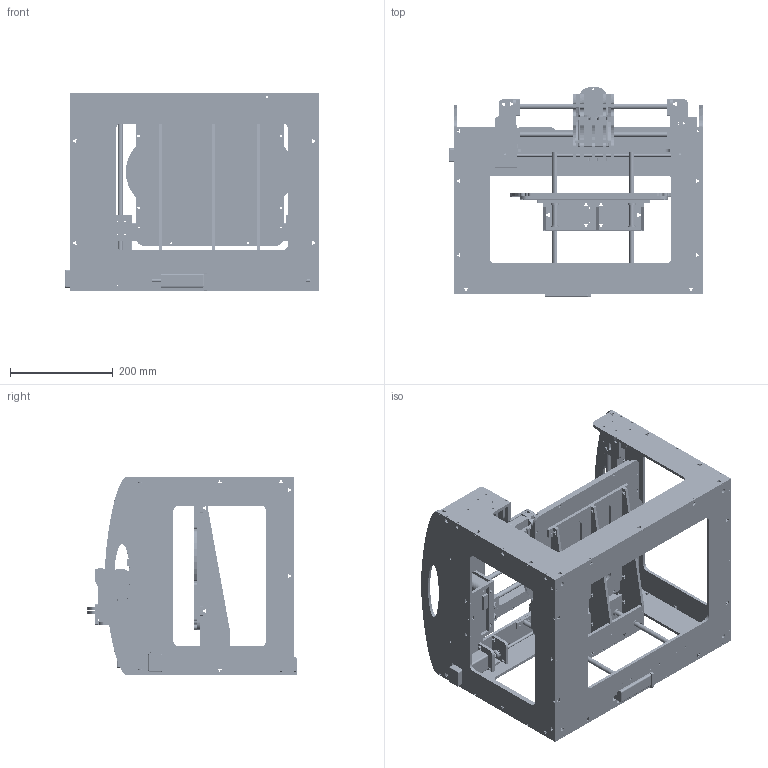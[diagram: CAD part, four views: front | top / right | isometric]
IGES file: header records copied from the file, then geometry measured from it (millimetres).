
Start section: SolidWorks IGES file using analytic representation for surfaces
Global section: file name: C:\Documents and Settings\Jimmy Smith\My Documents\Fab@Home\Model_2\Model_2 CAD\Parasoild\Model 2.IGS; native system: SolidWorks 2009; preprocessor: SolidWorks 2009; author: Jimmy Smith; date: 130223.195625; units: millimetre
Bounding box: 495.25 x 410.3 x 387 mm (x, y, z)
Surface area: 2327204.2 mm2 (no closed solid volume)
Topology: 0 solids, 0 shells, 8469 faces, 97950 edges, 97950 vertices
Faces by surface type: bspline 5089, revolution 3380
